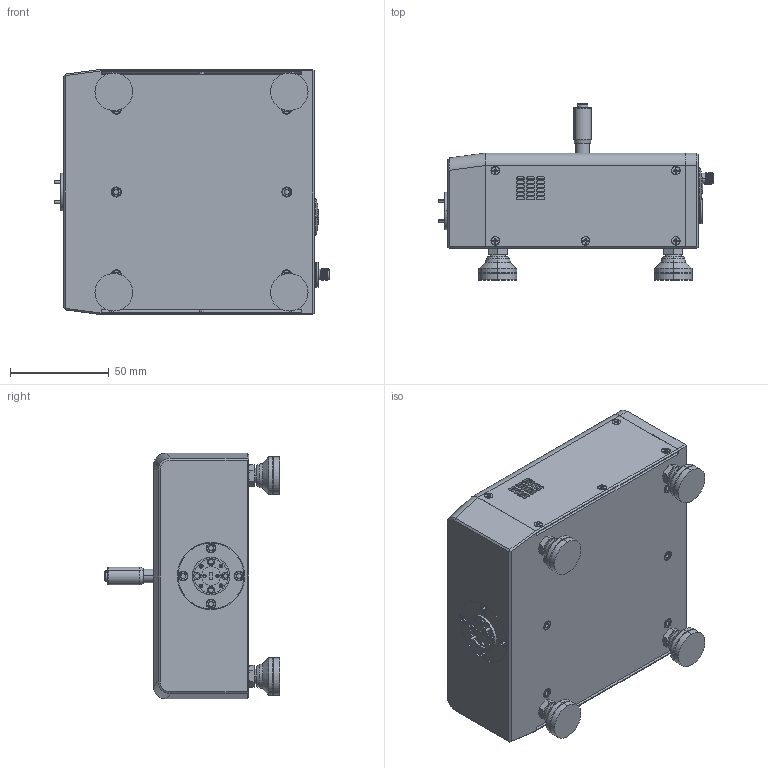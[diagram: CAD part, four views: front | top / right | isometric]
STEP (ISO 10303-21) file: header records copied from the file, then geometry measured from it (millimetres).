
FILE_DESCRIPTION (( 'STEP AP214' ), '1' );
FILE_NAME ('TE-E-A-2 Defeatured, CTRLD.STEP', '2024-08-28T17:37:01', ( '' ), ( '' ), 'SwSTEP 2.0', 'SolidWorks 2021', '' );
FILE_SCHEMA (( 'AUTOMOTIVE_DESIGN' ));
Length unit declared in the file: inch
Products named in the file (1): TE-E-A-2 Defeatured, CTRLD
Bounding box: 139.21 x 89.15 x 124.32 mm (x, y, z)
Volume: 670085.6 mm3; surface area: 115643.4 mm2
Topology: 31 solids, 40 shells, 1758 faces, 4395 edges, 2763 vertices
Faces by surface type: plane 812, cylinder 542, cone 358, sphere 38, torus 4, bspline 4
Entity records: 55509 total; most frequent: CARTESIAN_POINT 13611, ORIENTED_EDGE 8650, DIRECTION 8612, EDGE_CURVE 4325, AXIS2_PLACEMENT_3D 3258, VERTEX_POINT 2755, VECTOR 2096, LINE 2096
